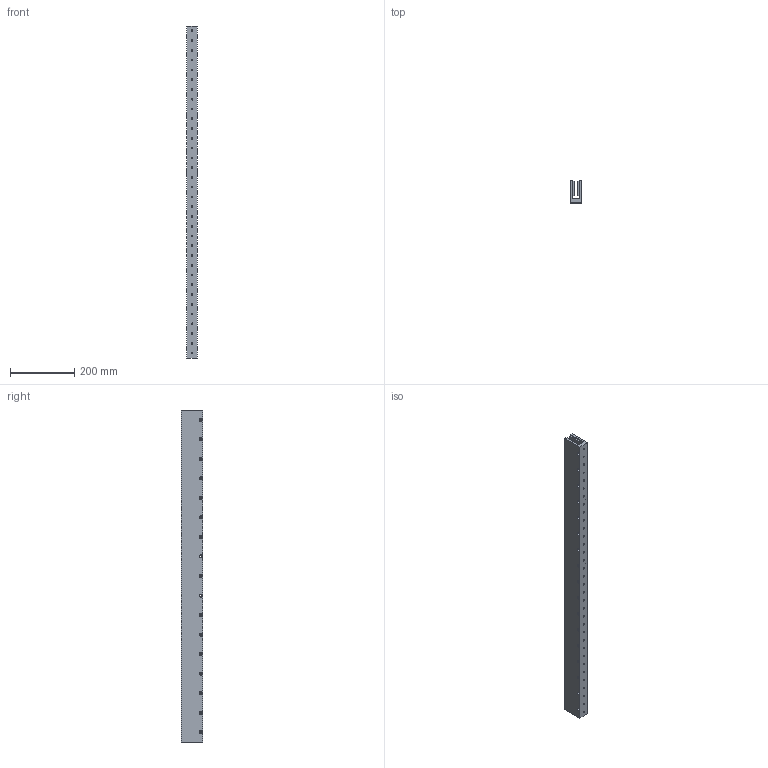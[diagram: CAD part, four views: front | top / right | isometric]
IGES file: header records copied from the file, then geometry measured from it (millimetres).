
Global section: file name: No Iges File Name specified; native system: Autodesk Inventor 2012; preprocessor: AutoDesk Inventor Iges Exporter R2012; author: je17857; date: 20120511.155325; units: inch
Bounding box: 34.29 x 67.31 x 1036.07 mm (x, y, z)
Volume: 1527299.9 mm3; surface area: 399075.7 mm2
Topology: 1 solids, 1 shells, 503 faces, 1163 edges, 781 vertices
Faces by surface type: plane 401, revolution 102
